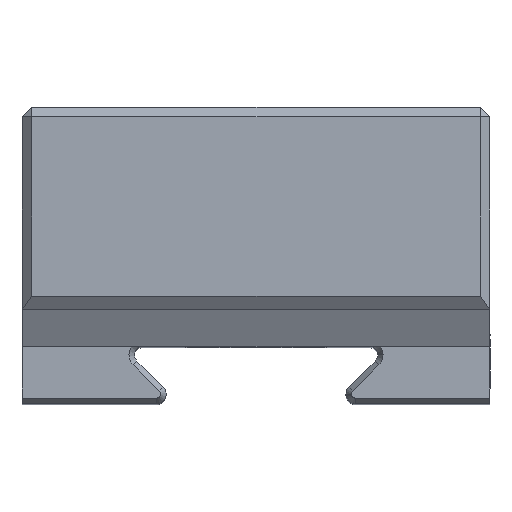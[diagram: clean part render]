
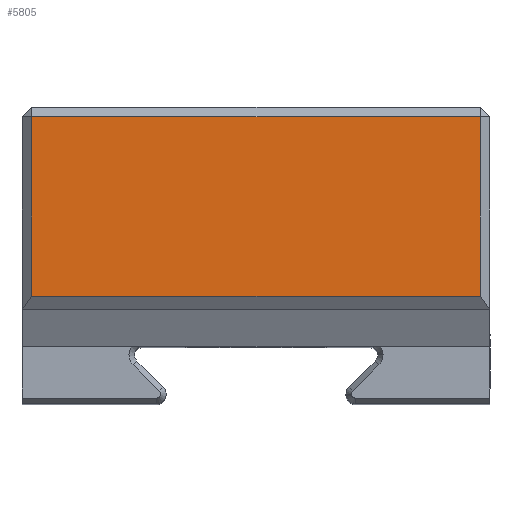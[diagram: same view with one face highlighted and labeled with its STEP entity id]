
A CAD part, top view. The second image highlights one B-rep face of the part: STEP entity #5805.
In plain terms, the highlighted planar face has unit normal (0, 0, 1).
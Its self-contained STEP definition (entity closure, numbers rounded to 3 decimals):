
#547 = ORIENTED_EDGE ( 'NONE', *, *, #7978, .T. ) ;
#683 = DIRECTION ( 'NONE',  ( -1., 0., 0. ) ) ;
#1109 = CARTESIAN_POINT ( 'NONE',  ( -23.5, -10.794, 60. ) ) ;
#1409 = DIRECTION ( 'NONE',  ( 0., 1., 0. ) ) ;
#1432 = EDGE_CURVE ( 'NONE', #8326, #1804, #2265, .T. ) ;
#1551 = EDGE_CURVE ( 'NONE', #1804, #7885, #8940, .T. ) ;
#1558 = CARTESIAN_POINT ( 'NONE',  ( 23.5, 0., 60. ) ) ;
#1749 = CARTESIAN_POINT ( 'NONE',  ( 23.5, -10.794, 60. ) ) ;
#1804 = VERTEX_POINT ( 'NONE', #9419 ) ;
#1813 = ORIENTED_EDGE ( 'NONE', *, *, #6537, .T. ) ;
#2265 = LINE ( 'NONE', #1558, #11623 ) ;
#3113 = ORIENTED_EDGE ( 'NONE', *, *, #1432, .T. ) ;
#3225 = DIRECTION ( 'NONE',  ( -1., 0., 0. ) ) ;
#3538 = VECTOR ( 'NONE', #3225, 1000. ) ;
#4025 = VECTOR ( 'NONE', #7070, 1000. ) ;
#4981 = AXIS2_PLACEMENT_3D ( 'NONE', #10732, #10694, #683 ) ;
#5211 = DIRECTION ( 'NONE',  ( 1., 0., 0. ) ) ;
#5805 = ADVANCED_FACE ( 'NONE', ( #5876 ), #9744, .F. ) ;
#5876 = FACE_OUTER_BOUND ( 'NONE', #8416, .T. ) ;
#6537 = EDGE_CURVE ( 'NONE', #7176, #8326, #7723, .T. ) ;
#6705 = LINE ( 'NONE', #7970, #4025 ) ;
#6750 = CARTESIAN_POINT ( 'NONE',  ( 0., 8., 60. ) ) ;
#7070 = DIRECTION ( 'NONE',  ( 0., -1., 0. ) ) ;
#7176 = VERTEX_POINT ( 'NONE', #1109 ) ;
#7723 = LINE ( 'NONE', #8810, #9134 ) ;
#7885 = VERTEX_POINT ( 'NONE', #8815 ) ;
#7970 = CARTESIAN_POINT ( 'NONE',  ( -23.5, 0., 60. ) ) ;
#7978 = EDGE_CURVE ( 'NONE', #7885, #7176, #6705, .T. ) ;
#8326 = VERTEX_POINT ( 'NONE', #1749 ) ;
#8416 = EDGE_LOOP ( 'NONE', ( #547, #1813, #3113, #11560 ) ) ;
#8810 = CARTESIAN_POINT ( 'NONE',  ( 0., -10.794, 60. ) ) ;
#8815 = CARTESIAN_POINT ( 'NONE',  ( -23.5, 8., 60. ) ) ;
#8940 = LINE ( 'NONE', #6750, #3538 ) ;
#9134 = VECTOR ( 'NONE', #5211, 1000. ) ;
#9419 = CARTESIAN_POINT ( 'NONE',  ( 23.5, 8., 60. ) ) ;
#9744 = PLANE ( 'NONE',  #4981 ) ;
#10694 = DIRECTION ( 'NONE',  ( 0., 0., -1. ) ) ;
#10732 = CARTESIAN_POINT ( 'NONE',  ( 0., 0., 60. ) ) ;
#11560 = ORIENTED_EDGE ( 'NONE', *, *, #1551, .T. ) ;
#11623 = VECTOR ( 'NONE', #1409, 1000. ) ;
